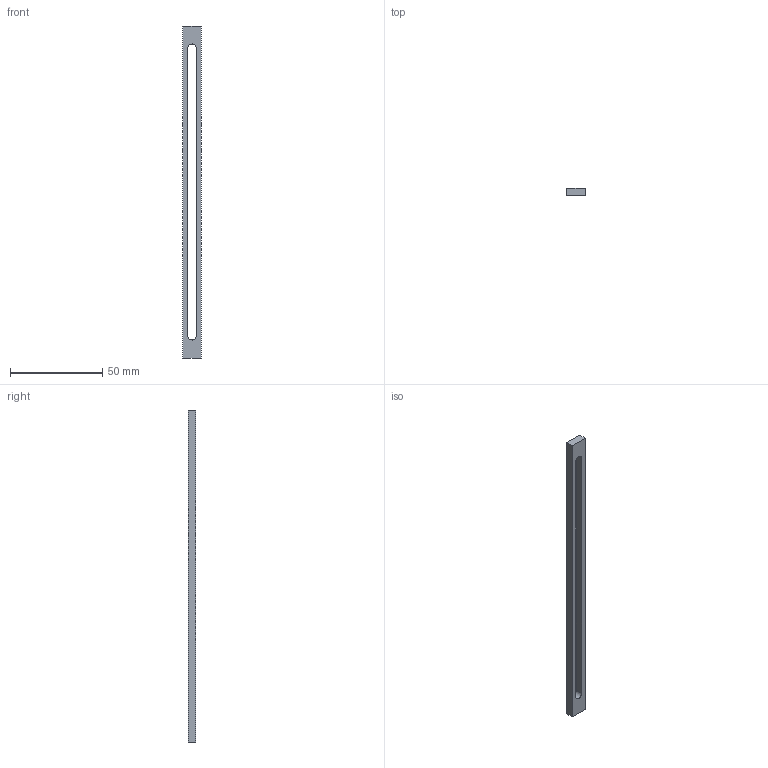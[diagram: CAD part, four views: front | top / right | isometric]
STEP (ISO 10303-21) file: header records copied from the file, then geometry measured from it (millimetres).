
FILE_DESCRIPTION(('Open CASCADE Model'),'2;1');
FILE_NAME('Open CASCADE Shape Model','2026-11-08T05:54:15',('Author'),( 'Open CASCADE'),'Open CASCADE STEP processor 7.8','Open CASCADE 7.8' ,'Unknown');
FILE_SCHEMA(('AUTOMOTIVE_DESIGN { 1 0 10303 214 1 1 1 1 }'));
Length unit declared in the file: millimetre
Products named in the file (1): Open CASCADE STEP translator 7.8 4
Bounding box: 10 x 4 x 180 mm (x, y, z)
Volume: 4328.4 mm3; surface area: 4988.7 mm2
Topology: 1 solids, 1 shells, 10 faces, 24 edges, 16 vertices
Faces by surface type: plane 8, cylinder 2
Entity records: 608 total; most frequent: CARTESIAN_POINT 109, DIRECTION 88, LINE 54, VECTOR 54, ORIENTED_EDGE 48, PCURVE 48, DEFINITIONAL_REPRESENTATION 48, EDGE_CURVE 24
